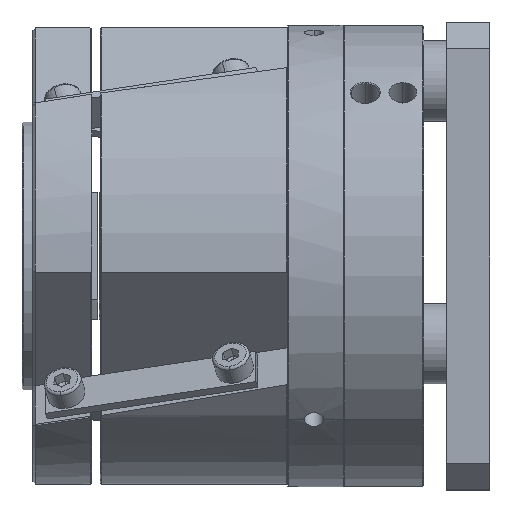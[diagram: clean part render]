
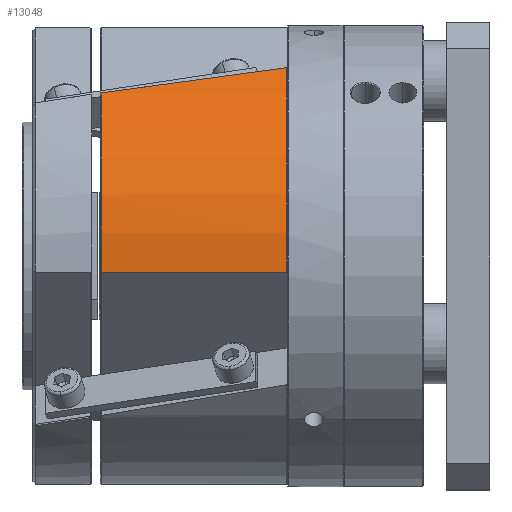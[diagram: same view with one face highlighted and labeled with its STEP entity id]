
A CAD part, left-side view. The second image highlights one B-rep face of the part: STEP entity #13048.
In plain terms, the highlighted cylindrical face has radius 42.5 mm (diameter 85 mm), a partial arc.
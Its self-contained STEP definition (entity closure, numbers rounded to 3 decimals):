
#47 = CARTESIAN_POINT ( 'NONE',  ( 280.899, 8.511, 267.916 ) ) ;
#376 = CARTESIAN_POINT ( 'NONE',  ( 262.606, 53.345, 229.908 ) ) ;
#1497 = CARTESIAN_POINT ( 'NONE',  ( 262.346, 8.511, 233.577 ) ) ;
#2263 = CARTESIAN_POINT ( 'NONE',  ( 262.606, 42.91, 229.908 ) ) ;
#3025 = CARTESIAN_POINT ( 'NONE',  ( 274.948, 42.91, 262.963 ) ) ;
#3253 = VERTEX_POINT ( 'NONE', #6928 ) ;
#3983 = VERTEX_POINT ( 'NONE', #12160 ) ;
#4118 = CARTESIAN_POINT ( 'NONE',  ( 262.606, 8.51, 229.908 ) ) ;
#4537 = CARTESIAN_POINT ( 'NONE',  ( 275.135, 42.911, 263.148 ) ) ;
#4898 = ORIENTED_EDGE ( 'NONE', *, *, #5520, .T. ) ;
#4949 = EDGE_CURVE ( 'NONE', #16610, #17227, #13513, .T. ) ;
#5068 = EDGE_CURVE ( 'NONE', #16610, #3253, #16581, .T. ) ;
#5079 = CARTESIAN_POINT ( 'NONE',  ( 280.899, 8.511, 267.916 ) ) ;
#5520 = EDGE_CURVE ( 'NONE', #3253, #3983, #9681, .T. ) ;
#6139 = CARTESIAN_POINT ( 'NONE',  ( 277.358, 29.258, 265.216 ) ) ;
#6167 = CARTESIAN_POINT ( 'NONE',  ( 265.109, 8.511, 248.027 ) ) ;
#6246 = CARTESIAN_POINT ( 'NONE',  ( 276.319, 35.72, 264.31 ) ) ;
#6814 = DIRECTION ( 'NONE',  ( 0.707, 0., 0.707 ) ) ;
#6928 = CARTESIAN_POINT ( 'NONE',  ( 280.899, 8.511, 267.916 ) ) ;
#7326 = CYLINDRICAL_SURFACE ( 'NONE', #18761, 42.5 ) ;
#7513 = CARTESIAN_POINT ( 'NONE',  ( 262.606, 8.51, 229.908 ) ) ;
#7956 = CARTESIAN_POINT ( 'NONE',  ( 279.267, 17.792, 266.757 ) ) ;
#9570 = AXIS2_PLACEMENT_3D ( 'NONE', #12680, #14021, #6814 ) ;
#9681 = B_SPLINE_CURVE_WITH_KNOTS ( 'NONE', 3,
 ( #5079, #15179, #7956, #6139, #6246, #15266 ),
 .UNSPECIFIED., .F., .F.,
 ( 4, 2, 4 ),
 ( 0., 0.5, 1. ),
 .UNSPECIFIED. ) ;
#10322 = DIRECTION ( 'NONE',  ( 0.707, 0., 0.707 ) ) ;
#11101 = CIRCLE ( 'NONE', #9570, 42.5 ) ;
#11502 = B_SPLINE_CURVE_WITH_KNOTS ( 'NONE', 3,
 ( #3025, #14446, #4537, #14641 ),
 .UNSPECIFIED., .F., .F.,
 ( 4, 4 ),
 ( 0., 1. ),
 .UNSPECIFIED. ) ;
#11753 = CARTESIAN_POINT ( 'NONE',  ( 277.869, 8.511, 265.83 ) ) ;
#11759 = FACE_OUTER_BOUND ( 'NONE', #18803, .T. ) ;
#12160 = CARTESIAN_POINT ( 'NONE',  ( 275.228, 42.911, 263.24 ) ) ;
#12680 = CARTESIAN_POINT ( 'NONE',  ( 305., 42.91, 232.911 ) ) ;
#13048 = ADVANCED_FACE ( 'NONE', ( #11759 ), #7326, .T. ) ;
#13190 = CARTESIAN_POINT ( 'NONE',  ( 262.565, 8.511, 237.28 ) ) ;
#13292 = CARTESIAN_POINT ( 'NONE',  ( 275.112, 8.511, 263.349 ) ) ;
#13384 = CARTESIAN_POINT ( 'NONE',  ( 270.327, 8.511, 257.761 ) ) ;
#13513 = LINE ( 'NONE', #376, #18725 ) ;
#13702 = DIRECTION ( 'NONE',  ( 0., 1., 0. ) ) ;
#14021 = DIRECTION ( 'NONE',  ( 0., -1., 0. ) ) ;
#14446 = CARTESIAN_POINT ( 'NONE',  ( 275.041, 42.911, 263.056 ) ) ;
#14448 = CARTESIAN_POINT ( 'NONE',  ( 305., 43.11, 232.911 ) ) ;
#14637 = CARTESIAN_POINT ( 'NONE',  ( 268.3, 8.511, 254.656 ) ) ;
#14641 = CARTESIAN_POINT ( 'NONE',  ( 275.228, 42.911, 263.24 ) ) ;
#14861 = ORIENTED_EDGE ( 'NONE', *, *, #4949, .F. ) ;
#14929 = VERTEX_POINT ( 'NONE', #17052 ) ;
#15011 = EDGE_CURVE ( 'NONE', #14929, #3983, #11502, .T. ) ;
#15179 = CARTESIAN_POINT ( 'NONE',  ( 280.137, 12.787, 267.391 ) ) ;
#15266 = CARTESIAN_POINT ( 'NONE',  ( 275.228, 42.911, 263.24 ) ) ;
#15303 = ORIENTED_EDGE ( 'NONE', *, *, #16506, .T. ) ;
#16071 = CARTESIAN_POINT ( 'NONE',  ( 263.947, 8.511, 244.505 ) ) ;
#16506 = EDGE_CURVE ( 'NONE', #14929, #17227, #11101, .T. ) ;
#16581 = B_SPLINE_CURVE_WITH_KNOTS ( 'NONE', 3,
 ( #7513, #1497, #13190, #16071, #6167, #14637, #13384, #13292, #11753, #47 ),
 .UNSPECIFIED., .F., .F.,
 ( 4, 2, 2, 2, 4 ),
 ( 0., 0.25, 0.5, 0.75, 1. ),
 .UNSPECIFIED. ) ;
#16610 = VERTEX_POINT ( 'NONE', #4118 ) ;
#17052 = CARTESIAN_POINT ( 'NONE',  ( 274.948, 42.91, 262.963 ) ) ;
#17227 = VERTEX_POINT ( 'NONE', #2263 ) ;
#17609 = DIRECTION ( 'NONE',  ( 0., 1., 0. ) ) ;
#17770 = ORIENTED_EDGE ( 'NONE', *, *, #5068, .T. ) ;
#18725 = VECTOR ( 'NONE', #13702, 1000. ) ;
#18761 = AXIS2_PLACEMENT_3D ( 'NONE', #14448, #17609, #10322 ) ;
#18803 = EDGE_LOOP ( 'NONE', ( #4898, #18825, #15303, #14861, #17770 ) ) ;
#18825 = ORIENTED_EDGE ( 'NONE', *, *, #15011, .F. ) ;
